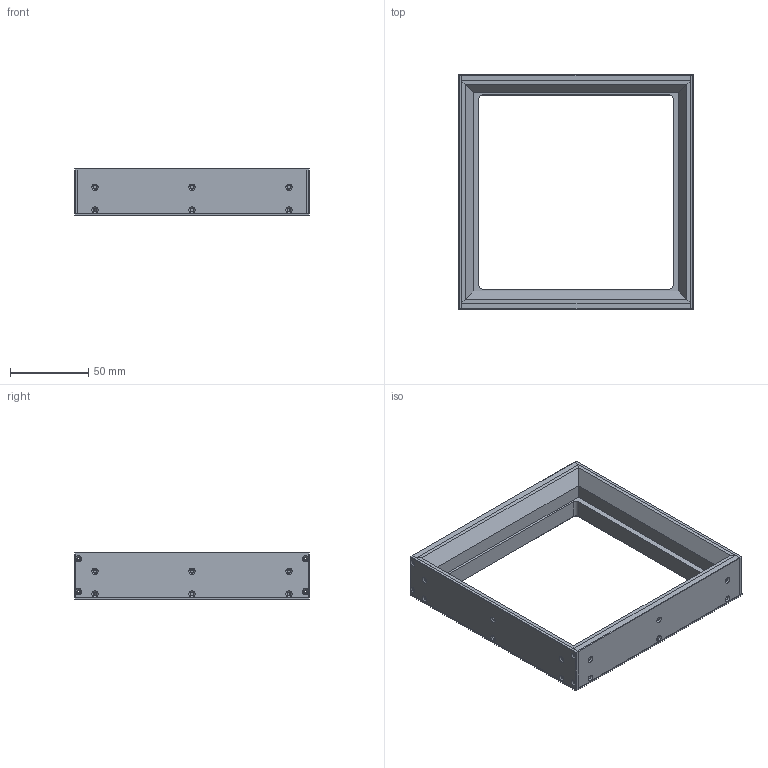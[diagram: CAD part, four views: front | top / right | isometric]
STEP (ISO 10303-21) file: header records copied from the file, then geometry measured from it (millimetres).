
FILE_DESCRIPTION (( 'STEP AP214' ), '1' );
FILE_NAME ('CST-FQS150-¼òÒ×3DÍ¼.STEP', '2020-11-18T10:57:14', ( '' ), ( '' ), 'SwSTEP 2.0', 'SolidWorks 2018', '' );
FILE_SCHEMA (( 'AUTOMOTIVE_DESIGN' ));
Length unit declared in the file: millimetre
Products named in the file (1): CST-FQS150-潠眢3D芞
Bounding box: 150 x 150 x 30 mm (x, y, z)
Surface area: 54883.7 mm2 (no closed solid volume)
Topology: 0 solids, 9 shells, 206 faces, 581 edges, 384 vertices
Faces by surface type: cylinder 77, cone 69, plane 60
Entity records: 8943 total; most frequent: DIRECTION 1248, CARTESIAN_POINT 1172, ORIENTED_EDGE 958, EDGE_CURVE 581, AXIS2_PLACEMENT_3D 460, VERTEX_POINT 384, LINE 328, VECTOR 328
